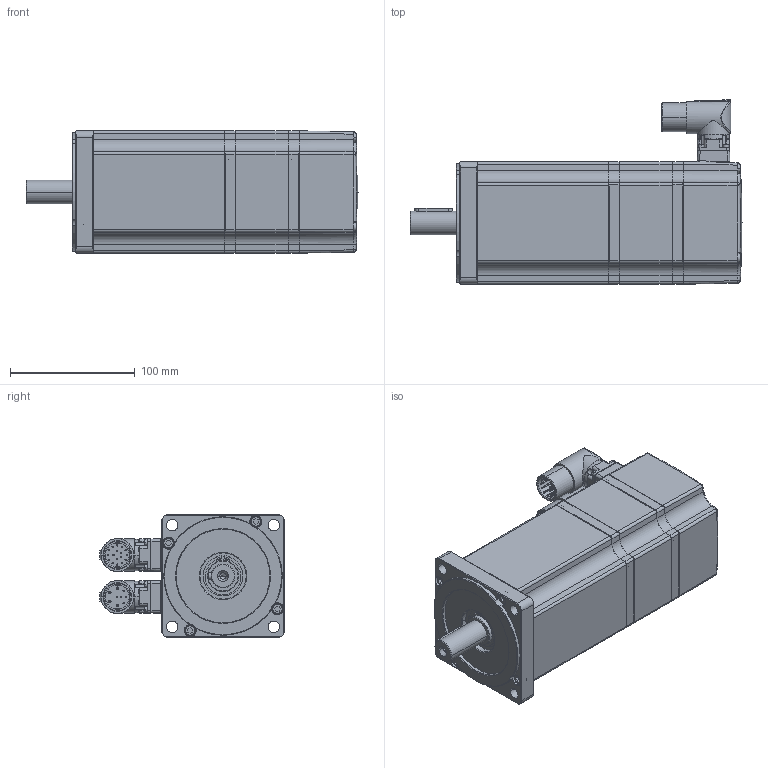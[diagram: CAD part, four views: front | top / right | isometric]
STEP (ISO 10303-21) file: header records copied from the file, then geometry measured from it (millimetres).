
FILE_DESCRIPTION((''),'2;1');
FILE_NAME('S1001B-FE-DA19X40-M6-63B5-C12C6_ASM','2020-11-24T',('dannyr'),(''),'CREO PARAMETRIC BY PTC INC, 2014500','CREO PARAMETRIC BY PTC INC, 2014500','');
FILE_SCHEMA(('AUTOMOTIVE_DESIGN { 1 0 10303 214 1 1 1 1 }'));
Products named in the file (19): AMT10P-003; 6005-2RS1; 6002-2Z; FLM10P-007; TUB10P-001; FLM10P-010; TUB10P-003; FLM10P-008; TCCE5X18; LNG006-001; A25--_-_U7435; CAL10P-001; TBCE4X50; CONM09-003; CONM17-007; TCCE2-5X10; TCCE5X14; TCCE5X65; S1001B-FE-DA19X40-M6-63B5-C12C6_ASM
Assembly tree (33 placements, depth 2):
  S1001B-FE-DA19X40-M6-63B5-C12C6_ASM
    AMT10P-003
    6005-2RS1
    6002-2Z
    FLM10P-007
    TUB10P-001
    FLM10P-010
    TUB10P-003
    FLM10P-008
    TCCE5X18  x4
    LNG006-001
    A25--_-_U7435
    CAL10P-001
    TBCE4X50  x4
    CONM09-003
    CONM17-007
    TCCE2-5X10  x8
    TCCE5X14  x2
    TCCE5X65  x2
Bounding box: 266 x 147.71 x 98 mm (x, y, z)
Volume: 928319.2 mm3; surface area: 312074.6 mm2
Topology: 33 solids, 35 shells, 1766 faces, 4224 edges, 2692 vertices
Faces by surface type: cylinder 682, plane 590, bspline 180, cone 178, torus 116, sphere 20
Entity records: 61192 total; most frequent: CARTESIAN_POINT 18818, DIRECTION 7325, ORIENTED_EDGE 6708, EDGE_CURVE 3354, AXIS2_PLACEMENT_3D 2994, VERTEX_POINT 2110, PRESENTATION_STYLE_ASSIGNMENT 1894, STYLED_ITEM 1769
